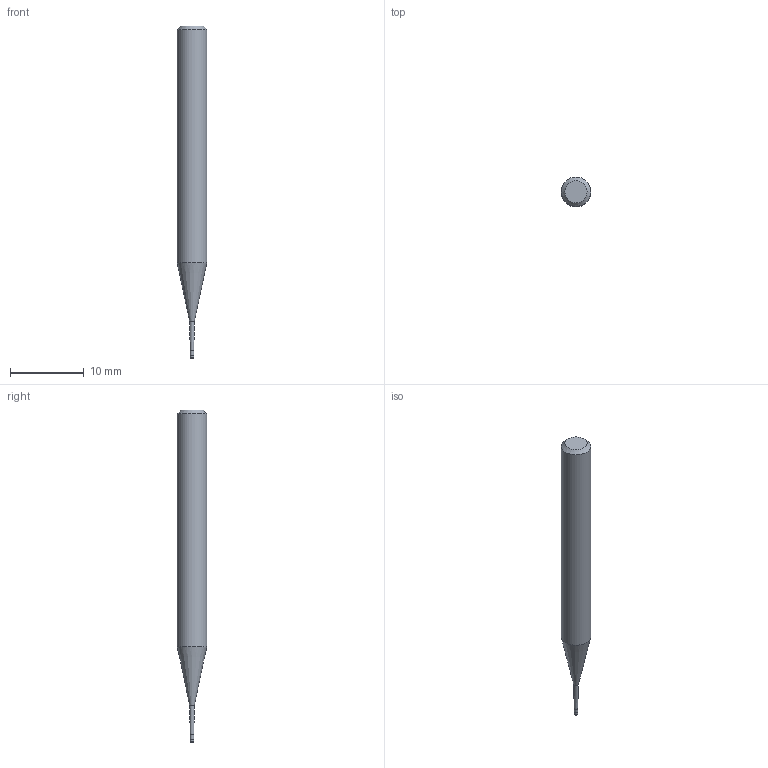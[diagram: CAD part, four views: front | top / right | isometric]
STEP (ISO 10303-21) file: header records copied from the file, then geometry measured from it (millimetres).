
FILE_DESCRIPTION((''),'2;1');
FILE_NAME('C:\Users\nsx150\AppData\Local\Temp\Mastercam 2021\YKS1SUSFZB\TEMP.step','2025-06-23T14:03:36',(''),(''),'STEP Write','Mastercam 2021 ... CNC Software, Inc.','');
FILE_SCHEMA(('AUTOMOTIVE_DESIGN'));
Length unit declared in the file: millimetre
Products named in the file (1): None
Bounding box: 4 x 4 x 45 mm (x, y, z)
Volume: 442.6 mm3; surface area: 480.2 mm2
Topology: 2 solids, 2 shells, 11 faces, 16 edges, 9 vertices
Faces by surface type: plane 4, cylinder 3, cone 3, torus 1
Full cylindrical faces by diameter (mm): 0.48 x1, 0.5 x1, 4 x1
Entity records: 253 total; most frequent: DIRECTION 44, CARTESIAN_POINT 31, AXIS2_PLACEMENT_3D 22, ORIENTED_EDGE 18, EDGE_LOOP 18, STYLED_ITEM 14, ADVANCED_FACE 11, FACE_BOUND 11
